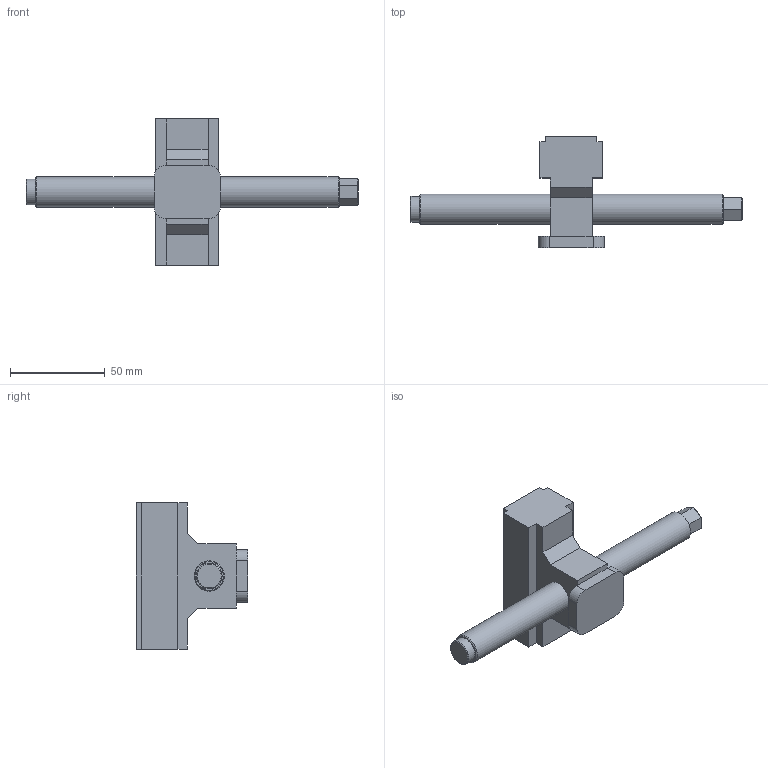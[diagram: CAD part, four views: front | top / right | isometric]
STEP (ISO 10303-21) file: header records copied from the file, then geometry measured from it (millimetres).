
FILE_DESCRIPTION (( 'STEP AP214' ), '1' );
FILE_NAME ('48160-TG7727.STEP', '2020-03-24T14:46:04', ( '' ), ( '' ), 'SwSTEP 2.0', 'SolidWorks 2019', '' );
FILE_SCHEMA (( 'AUTOMOTIVE_DESIGN' ));
Length unit declared in the file: millimetre
Products named in the file (1): 48160-TG7727
Bounding box: 175 x 58.8 x 77 mm (x, y, z)
Volume: 118112.5 mm3; surface area: 22722.2 mm2
Topology: 1 solids, 1 shells, 67 faces, 163 edges, 103 vertices
Faces by surface type: plane 57, cylinder 7, cone 3
Full cylindrical faces by diameter (mm): 13.5 x1, 16 x2
Entity records: 2410 total; most frequent: CARTESIAN_POINT 324, ORIENTED_EDGE 310, DIRECTION 308, EDGE_CURVE 155, LINE 138, VECTOR 138, VERTEX_POINT 101, AXIS2_PLACEMENT_3D 85
